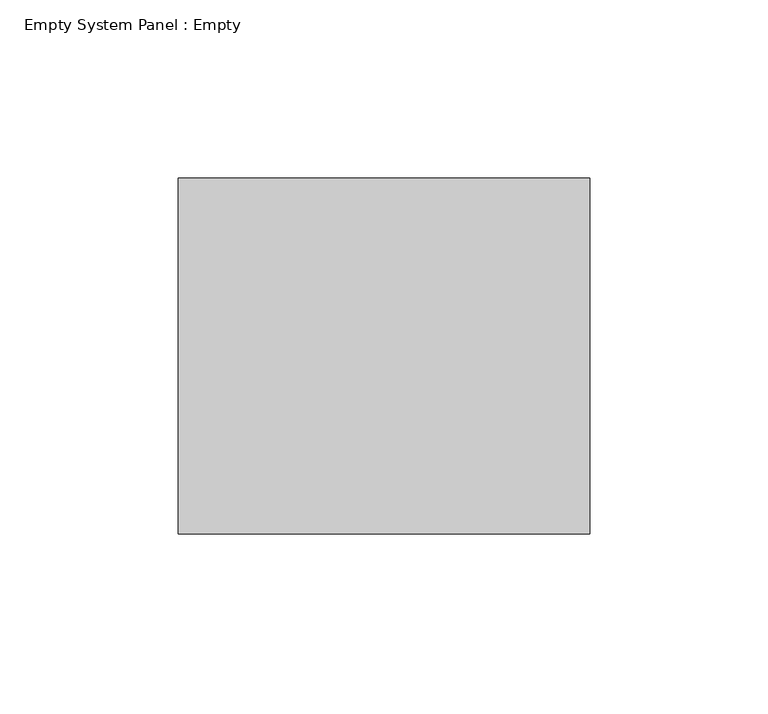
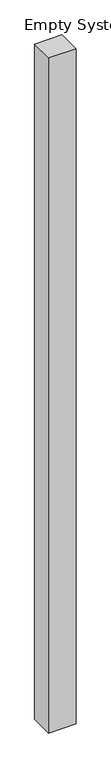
"""IFC4 building model written with IfcOpenShell, lengths in millimetres: plate geometry, Empty System Panel : Empty."""

from ifc_helpers import new_model, si_unit, origin, origin_with_axes, place, context, project, spatial, polyline, outline, extrude, source, transform, mapped, element, save


def empty_system_panel_empty_f62c9f60(model_context):
    return source(origin(), model_context, "Body", "SweptSolid", [
        extrude(outline(polyline([(57.7948762, 50.0), (-57.7948762, 50.0), (-57.7948762, 150.0), (57.7948762, 150.0), (57.7948762, 50.0)])), origin_with_axes(), (0.0, 0.0, 1.0), 3000.0),
    ])


if __name__ == "__main__":
    model = new_model("IFC4")
    model_context = context("Model", 3, world=origin())
    ifc_project = project(units=[si_unit("LENGTHUNIT", "METRE", prefix="MILLI")], contexts=[model_context])
    site = spatial("IfcSite", under=ifc_project)
    building = spatial("IfcBuilding", under=site)
    placement = place(None, origin())
    empty_system_panel_empty_shape = empty_system_panel_empty_f62c9f60(model_context)
    element("IfcPlate", 1, ObjectType="Empty System Panel : Empty", at=placement, inside=building, context=model_context, shape_type="MappedRepresentation", body=[
        mapped(empty_system_panel_empty_shape, transform((0.0, 0.0, 0.0), x_axis=(1.0, 0.0, 0.0), y_axis=(0.0, 1.0, 0.0), z_axis=(0.0, 0.0, 1.0))),
    ])
    save(model, "model.ifc")
